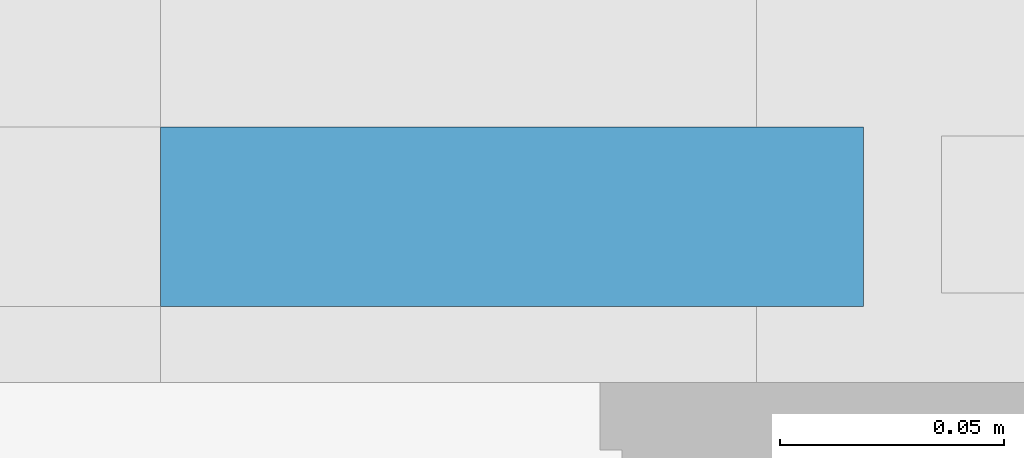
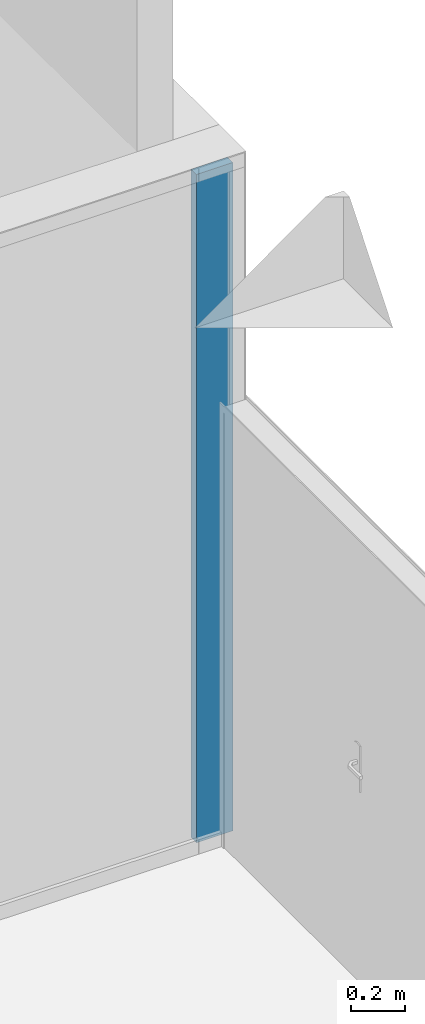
# One storey, part 73 of 240: 1 plate, 1 element without a shape of its own.
"""IFC2X3 building model written with IfcOpenShell, lengths in centimetres."""

import ifcopenshell
import ifcopenshell.guid

model = None  # the IFC model being written
_history = None  # IfcOwnerHistory: only IFC2X3 demands one
_inside = {}  # id of a spatial element -> (the spatial element, [elements in it])
_under = {}  # id of a project, library or spatial element -> (it, [spatial elements below it])
_declared = {}  # id of a project -> (the project, [libraries it declares])
_typed = {}  # id of a type object -> (the type object, [elements of that type])
_made_of = {}  # id of a material, layer set ... -> (it, [elements and type objects made of it])


def new_model(schema):
    """Start an empty IFC model of exactly this schema.

    Asked for "IFC4X3", IfcOpenShell would pick the latest addendum, in which some entities
    have other attributes; the version numbers below select the first issue.
    IFC2X3 requires an IfcOwnerHistory on every rooted entity: one is made here for all.
    """
    global model, _history
    if schema == "IFC4X3":
        model = ifcopenshell.file(schema_version=(4, 3, 0, 0))
    else:
        model = ifcopenshell.file(schema=schema)
    _inside.clear()
    _under.clear()
    _declared.clear()
    _typed.clear()
    _made_of.clear()
    _history = None
    if model.schema == "IFC2X3":
        org = make("IfcOrganization", Name="unknown")
        user = make(
            "IfcPersonAndOrganization",
            ThePerson=make("IfcPerson", FamilyName="unknown"),
            TheOrganization=org,
        )
        app = make(
            "IfcApplication",
            ApplicationDeveloper=org,
            Version="unknown",
            ApplicationFullName="unknown",
            ApplicationIdentifier="unknown",
        )
        _history = make(
            "IfcOwnerHistory",
            OwningUser=user,
            OwningApplication=app,
            ChangeAction="ADDED",
            CreationDate=0,
        )
    return model


def make(cls, **values):
    """One entity of the class cls with the attributes given. An attribute that is None is left unset."""
    return model.create_entity(
        cls, **{name: value for name, value in values.items() if value is not None}
    )


def entity(cls, *values):
    """Any entity or typed value of the class cls, its attributes in the order of the schema. None: left unset."""
    e = model.create_entity(cls)
    for i, value in enumerate(values):
        if value is not None:
            e[i] = value
    return e


def rooted(cls, **values):
    """An entity with a GlobalId (a new one), such as an element, a storey or a relation."""
    return make(cls, GlobalId=ifcopenshell.guid.new(), OwnerHistory=_history, **values)


def si_unit(unit_type, name, prefix=None):
    """IfcSIUnit, for example si_unit("LENGTHUNIT", "METRE", prefix="MILLI")."""
    return make("IfcSIUnit", UnitType=unit_type, Prefix=prefix, Name=name)


def converted_unit(unit_type, name, factor, base, dimensions=None, offset=None):
    """IfcConversionBasedUnit, such as the inch: factor (a typed value) times the base unit."""
    return make(
        "IfcConversionBasedUnit"
        if offset is None
        else "IfcConversionBasedUnitWithOffset",
        ConversionOffset=offset,
        Dimensions=None
        if dimensions is None
        else entity("IfcDimensionalExponents", *dimensions),
        UnitType=unit_type,
        Name=name,
        ConversionFactor=make(
            "IfcMeasureWithUnit", ValueComponent=factor, UnitComponent=base
        ),
    )


def derived_unit(unit_type, elements):
    """IfcDerivedUnit: a product of units, each with its exponent."""
    return make(
        "IfcDerivedUnit",
        Elements=[
            make("IfcDerivedUnitElement", Unit=unit, Exponent=power)
            for unit, power in elements
        ],
        UnitType=unit_type,
    )


def assignment(units):
    """IfcUnitAssignment: the units of a project."""
    return None if units is None else make("IfcUnitAssignment", Units=units)


def point(xyz):
    """IfcCartesianPoint."""
    return None if xyz is None else make("IfcCartesianPoint", Coordinates=xyz)


def direction(xyz):
    """IfcDirection."""
    return None if xyz is None else make("IfcDirection", DirectionRatios=xyz)


def frame(location, z_axis=None, x_axis=None):
    """IfcAxis2Placement3D, a coordinate frame: its origin and axes. An axis left out is left unset."""
    return make(
        "IfcAxis2Placement3D",
        Location=point(location),
        Axis=direction(z_axis),
        RefDirection=direction(x_axis),
    )


def frame_2d(location, x_axis=None):
    """IfcAxis2Placement2D, a coordinate frame in the plane: its origin and x axis."""
    return make(
        "IfcAxis2Placement2D", Location=point(location), RefDirection=direction(x_axis)
    )


def origin():
    """The frame at (0, 0, 0) with its axes left unset."""
    return frame((0.0, 0.0, 0.0))


def origin_2d_with_axis():
    """The frame at (0, 0) in the plane with the x axis (1, 0) written out."""
    return frame_2d((0.0, 0.0), x_axis=(1.0, 0.0))


def place(relative_to, where):
    """IfcLocalPlacement: puts the frame where relative to a parent placement (None: the world)."""
    return make(
        "IfcLocalPlacement", PlacementRelTo=relative_to, RelativePlacement=where
    )


def context(
    kind, dimensions, precision=None, world=None, true_north=None, identifier=None
):
    """IfcGeometricRepresentationContext, for example the 3D "Model" context."""
    return make(
        "IfcGeometricRepresentationContext",
        ContextIdentifier=identifier,
        ContextType=kind,
        CoordinateSpaceDimension=dimensions,
        Precision=precision,
        WorldCoordinateSystem=world,
        TrueNorth=true_north,
    )


def subcontext(parent, identifier, kind, view, scale=None):
    """IfcGeometricRepresentationSubContext, for example "Body" below "Model"."""
    return make(
        "IfcGeometricRepresentationSubContext",
        ContextIdentifier=identifier,
        ContextType=kind,
        ParentContext=parent,
        TargetScale=scale,
        TargetView=view,
    )


def project(units=None, contexts=None):
    """IfcProject with its units and contexts."""
    return rooted(
        "IfcProject",
        Name="project",
        RepresentationContexts=contexts,
        UnitsInContext=assignment(units),
    )


def spatial(cls, under=None, at=None, **own):
    """A site, building, storey or space (cls), placed at a placement, below another one or the project."""
    s = rooted(cls, ObjectPlacement=at, **own)
    if under is not None:
        _under.setdefault(under.id(), (under, []))[1].append(s)
    return s


def profile(cls, at=None, kind="AREA", **sizes):
    """A parametric profile (cls). Its sizes go by their IFC names, for example OverallWidth=200.0."""
    return make(cls, ProfileType=kind, Position=at, **sizes)


def rectangle(**sizes):
    """IfcRectangleProfileDef."""
    return profile("IfcRectangleProfileDef", **sizes)


def extrude(swept, where, along, depth):
    """IfcExtrudedAreaSolid: the profile swept, set in the frame where, extruded along a direction by depth."""
    return make(
        "IfcExtrudedAreaSolid",
        SweptArea=swept,
        Position=where,
        ExtrudedDirection=direction(along),
        Depth=depth,
    )


def shape(context_of_items, identifier, shape_type, items):
    """IfcShapeRepresentation: the items that make up one representation, for example the "Body"."""
    return make(
        "IfcShapeRepresentation",
        ContextOfItems=context_of_items,
        RepresentationIdentifier=identifier,
        RepresentationType=shape_type,
        Items=items,
    )


def source(mapping_origin, context_of_items, identifier, shape_type, items):
    """IfcRepresentationMap: a shape defined once, which mapped items show again and again."""
    return make(
        "IfcRepresentationMap",
        MappingOrigin=mapping_origin,
        MappedRepresentation=shape(context_of_items, identifier, shape_type, items),
    )


def transform(
    local_origin,
    x_axis=None,
    y_axis=None,
    z_axis=None,
    scale=None,
    scale2=None,
    scale3=None,
    uniform=True,
):
    """IfcCartesianTransformationOperator3D, or its non-uniform kind. x_axis, y_axis, z_axis: its Axis1, 2, 3."""
    if uniform:
        return make(
            "IfcCartesianTransformationOperator3D",
            Axis1=direction(x_axis),
            Axis2=direction(y_axis),
            LocalOrigin=point(local_origin),
            Scale=scale,
            Axis3=direction(z_axis),
        )
    return make(
        "IfcCartesianTransformationOperator3DnonUniform",
        Axis1=direction(x_axis),
        Axis2=direction(y_axis),
        LocalOrigin=point(local_origin),
        Scale=scale,
        Axis3=direction(z_axis),
        Scale2=scale2,
        Scale3=scale3,
    )


def mapped(mapping_source, mapping_target):
    """IfcMappedItem: shows the shape of a source again, moved by a transform."""
    return make(
        "IfcMappedItem", MappingSource=mapping_source, MappingTarget=mapping_target
    )


def material(Name=None, Category=None):
    """IfcMaterial."""
    return make("IfcMaterial", Name=Name, Category=Category)


def layer(
    of_material, thickness, ventilated=None, Name=None, Category=None, Priority=None
):
    """IfcMaterialLayer: one layer of a wall or slab, of a material (None: an air gap)."""
    return make(
        "IfcMaterialLayer",
        Material=of_material,
        LayerThickness=thickness,
        IsVentilated=ventilated,
        Name=Name,
        Category=Category,
        Priority=Priority,
    )


def layer_set(layers, Name=None):
    """IfcMaterialLayerSet."""
    return make("IfcMaterialLayerSet", MaterialLayers=layers, LayerSetName=Name)


def layer_usage(for_layer_set, set_direction, sense, offset, extent=None):
    """IfcMaterialLayerSetUsage: how a layer set lies in its element."""
    return make(
        "IfcMaterialLayerSetUsage",
        ForLayerSet=for_layer_set,
        LayerSetDirection=set_direction,
        DirectionSense=sense,
        OffsetFromReferenceLine=offset,
        ReferenceExtent=extent,
    )


def made_of(thing, what):
    """Note that an element or type object is made of a material, layer set ...; save() writes the relation."""
    if what is not None:
        _made_of.setdefault(what.id(), (what, []))[1].append(thing)
    return thing


def type_object(cls, material=None, **own):
    """A type object (cls), such as IfcWallType, which elements share."""
    return made_of(rooted(cls, **own), material)


def type_shapes(of_type, sources):
    """Give a type object the sources (RepresentationMaps) that its elements show as mapped items."""
    of_type.RepresentationMaps = sources


def element(
    cls,
    number,
    at=None,
    inside=None,
    cuts=None,
    type_object=None,
    material=None,
    context=None,
    identifier="Body",
    shape_type=None,
    held_by="IfcProductDefinitionShape",
    body=None,
    shapes=None,
    **own,
):
    """One element of the class cls, such as IfcWall. Its Tag is "e" and its number.

    at: its placement. inside: the storey or other place that contains it. cuts: it is an
    opening in that element (IfcRelVoidsElement). A single representation is given by context,
    identifier, shape_type and body (its items); several are given by shapes. held_by: the class
    of the entity that holds the representations. save() writes the other relations.
    """
    e = rooted(cls, Tag="e%d" % number, ObjectPlacement=at, **own)
    if body is not None:
        shapes = [shape(context, identifier, shape_type, body)]
    if shapes is not None:
        e.Representation = make(held_by, Representations=shapes)
    if inside is not None:
        _inside.setdefault(inside.id(), (inside, []))[1].append(e)
    if cuts is not None:
        rooted(
            "IfcRelVoidsElement", RelatingBuildingElement=cuts, RelatedOpeningElement=e
        )
    if type_object is not None:
        _typed.setdefault(type_object.id(), (type_object, []))[1].append(e)
    return made_of(e, material)


def aggregate(whole, parts):
    """IfcRelAggregates: a whole, such as a stair, and the parts it consists of."""
    return rooted("IfcRelAggregates", RelatingObject=whole, RelatedObjects=parts)


def save(model, path):
    """Write the relations noted so far, then the file.

    IfcRelAggregates (storeys below a building ...), IfcRelContainedInSpatialStructure (elements
    in a storey), IfcRelDefinesByType, IfcRelAssociatesMaterial and IfcRelDeclares: one each for
    every whole, place, type object, material and project.
    """
    for whole, parts in _under.values():
        aggregate(whole, parts)
    for where, things in _inside.values():
        rooted(
            "IfcRelContainedInSpatialStructure",
            RelatedElements=things,
            RelatingStructure=where,
        )
    for kind, things in _typed.values():
        rooted("IfcRelDefinesByType", RelatedObjects=things, RelatingType=kind)
    for what, things in _made_of.values():
        rooted("IfcRelAssociatesMaterial", RelatedObjects=things, RelatingMaterial=what)
    for by, libraries in _declared.values():
        rooted("IfcRelDeclares", RelatingContext=by, RelatedDefinitions=libraries)
    model.write(path)


model = new_model("IFC2X3")

# Units and contexts
model_context = context("Model", 3, precision=0.001, world=origin(), true_north=direction((6.12303176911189e-17, 1.0)))
body_context = subcontext(model_context, "Body", "Model", "MODEL_VIEW")
ifc_project = project(units=[si_unit("LENGTHUNIT", "METRE", prefix="CENTI"), si_unit("AREAUNIT", "SQUARE_METRE"), si_unit("VOLUMEUNIT", "CUBIC_METRE"), converted_unit("PLANEANGLEUNIT", "DEGREE", entity("IfcRatioMeasure", 0.0174532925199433), si_unit("PLANEANGLEUNIT", "RADIAN"), dimensions=[0, 0, 0, 0, 0, 0, 0]), si_unit("MASSUNIT", "GRAM", prefix="KILO"), derived_unit("MASSDENSITYUNIT", [(si_unit("MASSUNIT", "GRAM", prefix="KILO"), 1), (si_unit("LENGTHUNIT", "METRE"), -3)]), si_unit("TIMEUNIT", "SECOND"), si_unit("FREQUENCYUNIT", "HERTZ"), si_unit("THERMODYNAMICTEMPERATUREUNIT", "DEGREE_CELSIUS"), derived_unit("THERMALTRANSMITTANCEUNIT", [(si_unit("MASSUNIT", "GRAM", prefix="KILO"), 1), (si_unit("THERMODYNAMICTEMPERATUREUNIT", "KELVIN"), -1), (si_unit("TIMEUNIT", "SECOND"), -3)]), derived_unit("VOLUMETRICFLOWRATEUNIT", [(si_unit("LENGTHUNIT", "METRE"), 3), (si_unit("TIMEUNIT", "SECOND"), -1)]), si_unit("ELECTRICCURRENTUNIT", "AMPERE"), si_unit("ELECTRICVOLTAGEUNIT", "VOLT"), si_unit("POWERUNIT", "WATT"), si_unit("FORCEUNIT", "NEWTON", prefix="KILO"), si_unit("ILLUMINANCEUNIT", "LUX"), si_unit("LUMINOUSFLUXUNIT", "LUMEN"), si_unit("LUMINOUSINTENSITYUNIT", "CANDELA"), derived_unit("USERDEFINED", [(si_unit("MASSUNIT", "GRAM", prefix="KILO"), -1), (si_unit("LENGTHUNIT", "METRE"), -2), (si_unit("TIMEUNIT", "SECOND"), 3), (si_unit("LUMINOUSFLUXUNIT", "LUMEN"), 1)]), derived_unit("LINEARVELOCITYUNIT", [(si_unit("LENGTHUNIT", "METRE"), 1), (si_unit("TIMEUNIT", "SECOND"), -1)]), si_unit("PRESSUREUNIT", "PASCAL"), derived_unit("USERDEFINED", [(si_unit("LENGTHUNIT", "METRE"), -2), (si_unit("MASSUNIT", "GRAM", prefix="KILO"), 1), (si_unit("TIMEUNIT", "SECOND"), -2)])], contexts=[model_context])

# Site, building, storey
site_placement = place(None, frame((-2781.94577612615, 7442.24238424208, 0.0)))
site = spatial("IfcSite", under=ifc_project, at=site_placement, Name="Default", CompositionType="ELEMENT")
building_placement = place(site_placement, origin())
building = spatial("IfcBuilding", under=site, at=building_placement, CompositionType="ELEMENT")
storey_placement = place(building_placement, origin())
storey = spatial("IfcBuildingStorey", under=building, at=storey_placement, Name="N00 - COO", CompositionType="ELEMENT", Elevation=0.0)

# Curtain wall, plate
curtain_wall_type = type_object("IfcCurtainWallType", Name="Mur-rideau:07 - mur rideau trame 140 cm", PredefinedType="NOTDEFINED")
curtain_wall_placement = place(building_placement, origin())
curtain_wall = element("IfcCurtainWall", 1, at=curtain_wall_placement, inside=storey, type_object=curtain_wall_type, Name="Mur-rideau:07 - mur rideau trame 140 cm", ObjectType="Mur-rideau:07 - mur rideau trame 140 cm")
ifc_material = material(Name="Verre")
ifc_layer = layer(ifc_material, 4.0)
ifc_layer_set = layer_set([ifc_layer], Name="Panneau système:Plein (panneau Sandwich)")
ifc_layer_usage = layer_usage(ifc_layer_set, "AXIS3", "POSITIVE", 0.0)
plate_type = type_object("IfcPlateType", Name="Plein (panneau Sandwich)", PredefinedType="CURTAIN_PANEL", material=ifc_layer_set)
shared_shape = source(origin(), body_context, "Body", "SweptSolid", [
    extrude(rectangle(XDim=4.0, YDim=15.6812499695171, at=origin_2d_with_axis()), frame((0.0, 0.0, 0.0), z_axis=(0.0, 0.0, 1.0), x_axis=(0.0, 1.0, 0.0)), (0.0, 0.0, 1.0), 304.2625),
])
type_shapes(plate_type, [shared_shape])
plate_placement = place(curtain_wall_placement, frame((-402.459257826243, -3046.51349958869, 4.11874999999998)))
plate = element("IfcPlate", 2, at=plate_placement, type_object=plate_type, material=ifc_layer_usage, Name="Panneau système:Plein (panneau Sandwich)", ObjectType="Panneau système:Plein (panneau Sandwich)", context=body_context, shape_type="MappedRepresentation", body=[
    mapped(shared_shape, transform((0.0, 0.0, 0.0), scale=1.0)),
])
aggregate(curtain_wall, [plate])

save(model, "model.ifc")
